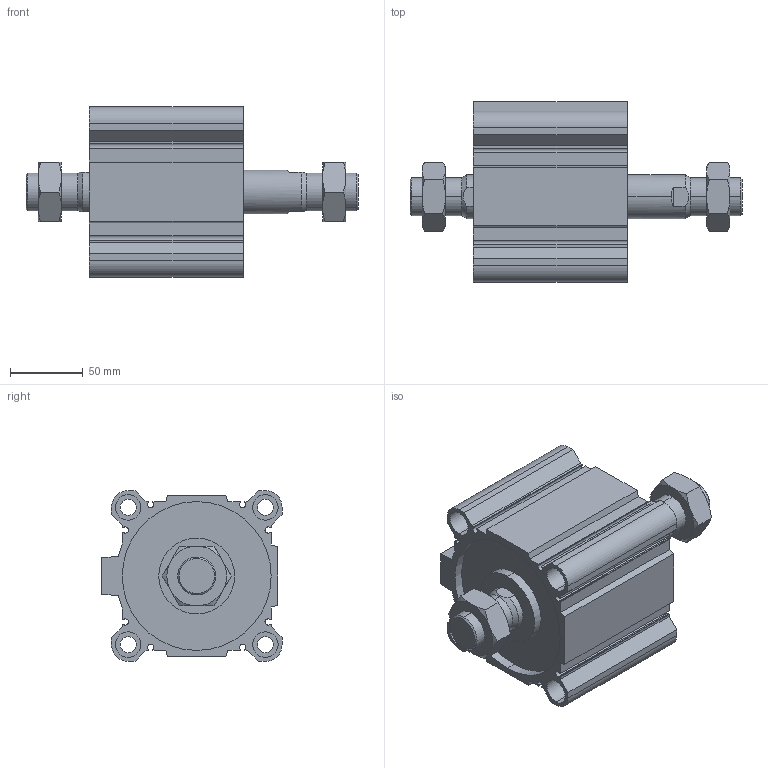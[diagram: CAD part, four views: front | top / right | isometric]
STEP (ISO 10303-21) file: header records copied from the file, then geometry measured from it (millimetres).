
FILE_DESCRIPTION (( 'STEP AP203' ), '1' );
FILE_NAME ('CCMB100-35M-P.STEP', '2020-08-10T11:59:20', ( '' ), ( '' ), 'SwSTEP 2.0', 'SolidWorks 2019', '' );
FILE_SCHEMA (( 'CONFIG_CONTROL_DESIGN' ));
Length unit declared in the file: millimetre
Products named in the file (1): CCMB100-35M-P
Bounding box: 227.5 x 123.5 x 117 mm (x, y, z)
Volume: 991890.4 mm3; surface area: 207839 mm2
Topology: 4 solids, 4 shells, 230 faces, 568 edges, 364 vertices
Faces by surface type: plane 106, cylinder 80, cone 44
Entity records: 7879 total; most frequent: CARTESIAN_POINT 2279, DIRECTION 1166, ORIENTED_EDGE 1136, EDGE_CURVE 568, AXIS2_PLACEMENT_3D 431, VERTEX_POINT 364, VECTOR 304, LINE 304
